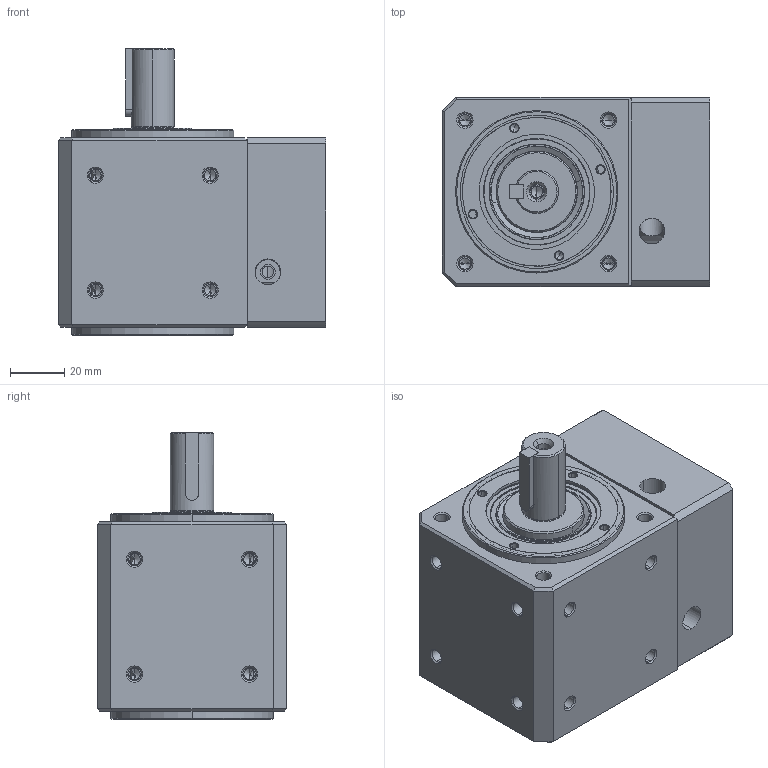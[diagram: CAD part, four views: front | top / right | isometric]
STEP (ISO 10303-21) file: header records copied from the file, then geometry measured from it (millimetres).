
FILE_DESCRIPTION (( 'STEP AP203' ), '1' );
FILE_NAME ('WS70SF-2-14-50-70-M5.STEP', '2012-10-23T03:22:55', ( 'user' ), ( 'SYNNEX' ), 'SwSTEP 2.0', 'SolidWorks 2008', '' );
FILE_SCHEMA (( 'CONFIG_CONTROL_DESIGN' ));
Length unit declared in the file: millimetre
Products named in the file (1): WS70SF-2-14-50-70-M5
Bounding box: 99 x 70 x 106 mm (x, y, z)
Volume: 360026.4 mm3; surface area: 116387 mm2
Topology: 11 solids, 11 shells, 935 faces, 2309 edges, 1394 vertices
Faces by surface type: cylinder 295, cone 287, plane 175, sphere 112, torus 66
Entity records: 32514 total; most frequent: CARTESIAN_POINT 10102, DIRECTION 4993, ORIENTED_EDGE 4474, EDGE_CURVE 2237, AXIS2_PLACEMENT_3D 2141, VERTEX_POINT 1394, CIRCLE 1205, EDGE_LOOP 1129
